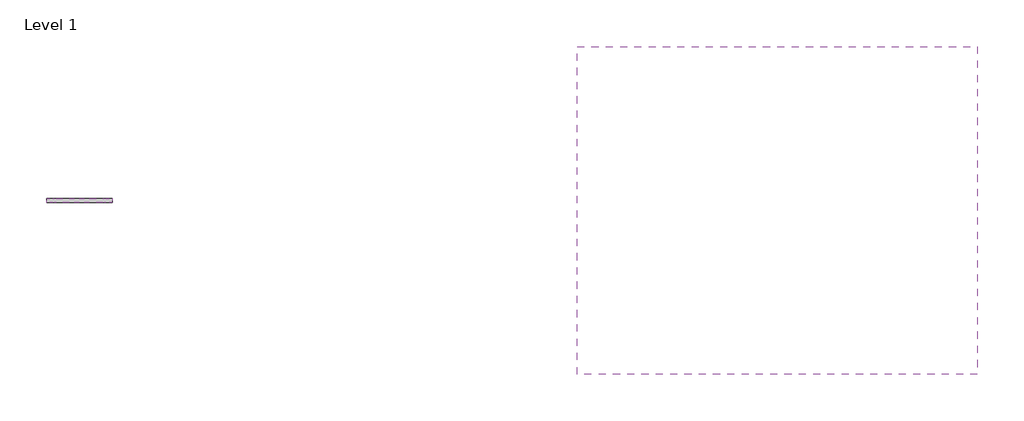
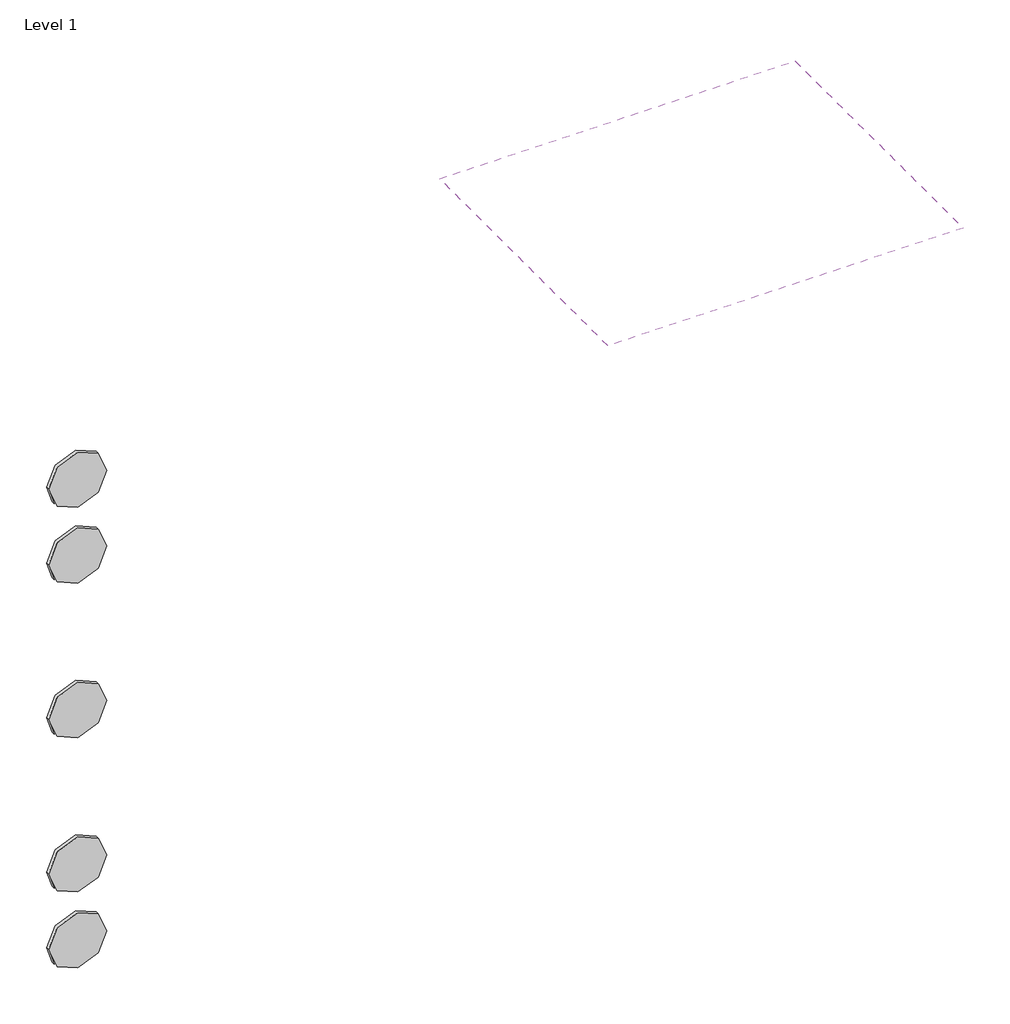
# One storey, incomplete: 5 proxies, 1 covering.
"""IFC4 building model written with IfcOpenShell, lengths in millimetres."""

from ifc_helpers import new_model, si_unit, frame, origin, place, context, project, spatial, polyline, outline, extrude, transform, mapped, element, save
from components import materialmodel_materialmodel_41144b76

model = new_model("IFC4")

# Units and contexts
model_context = context("Model", 3, world=origin())
ifc_project = project(units=[si_unit("LENGTHUNIT", "METRE", prefix="MILLI")], contexts=[model_context])

# Site, building, storey
site = spatial("IfcSite", under=ifc_project)
building = spatial("IfcBuilding", under=site)
storey = spatial("IfcBuildingStorey", under=building, Name="Level 1", Elevation=0.0)

# Proxies
placement = place(None, origin())
materialmodel_materialmodel_shape = materialmodel_materialmodel_41144b76(model_context)
element("IfcBuildingElementProxy", 1, Name="MaterialModel : MaterialModel", ObjectType="MaterialModel : MaterialModel", at=placement, inside=storey, context=model_context, shape_type="MappedRepresentation", body=[
    mapped(materialmodel_materialmodel_shape, transform((-15997.8072231, 6097.5863071, 816.7046249), x_axis=(1.0, 0.0, 0.0), y_axis=(0.0, 1.0, 0.0), z_axis=(0.0, 0.0, 1.0))),
])
element("IfcBuildingElementProxy", 2, Name="MaterialModel : MaterialModel", ObjectType="MaterialModel : MaterialModel", at=placement, inside=storey, context=model_context, shape_type="MappedRepresentation", body=[
    mapped(materialmodel_materialmodel_shape, transform((-15997.8072231, 6097.5863071, 1652.218674), x_axis=(1.0, 0.0, 0.0), y_axis=(0.0, 1.0, 0.0), z_axis=(0.0, 0.0, 1.0))),
])
element("IfcBuildingElementProxy", 3, Name="MaterialModel : MaterialModel", ObjectType="MaterialModel : MaterialModel", at=placement, inside=storey, context=model_context, shape_type="MappedRepresentation", body=[
    mapped(materialmodel_materialmodel_shape, transform((-15997.8072231, 6097.5863071, 1377.218674), x_axis=(1.0, 0.0, 0.0), y_axis=(0.0, 1.0, 0.0), z_axis=(0.0, 0.0, 1.0))),
])
element("IfcBuildingElementProxy", 4, Name="MaterialModel : MaterialModel", ObjectType="MaterialModel : MaterialModel", at=placement, inside=storey, context=model_context, shape_type="MappedRepresentation", body=[
    mapped(materialmodel_materialmodel_shape, transform((-15997.8072231, 6097.5863071, 256.7046249), x_axis=(1.0, 0.0, 0.0), y_axis=(0.0, 1.0, 0.0), z_axis=(0.0, 0.0, 1.0))),
])
element("IfcBuildingElementProxy", 5, Name="MaterialModel : MaterialModel", ObjectType="MaterialModel : MaterialModel", at=placement, inside=storey, context=model_context, shape_type="MappedRepresentation", body=[
    mapped(materialmodel_materialmodel_shape, transform((-15997.8072231, 6097.5863071, -18.2953751), x_axis=(1.0, 0.0, 0.0), y_axis=(0.0, 1.0, 0.0), z_axis=(0.0, 0.0, 1.0))),
])

# Covering
element("IfcCovering", 6, ObjectType="600 x 1200mm Grid", at=placement, inside=storey, context=model_context, shape_type="SweptSolid", body=[
    extrude(outline(polyline([(-13260.883584, 6561.1087432), (-13260.883584, 5561.1087432), (-14480.883584, 5561.1087432), (-14480.883584, 6561.1087432), (-13260.883584, 6561.1087432)])), frame((0.0, 0.0, 2000.0), z_axis=(0.0, 0.0, 1.0), x_axis=(1.0, 0.0, 0.0)), (0.0, 0.0, 1.0), 52.0),
])

save(model, "model.ifc")
